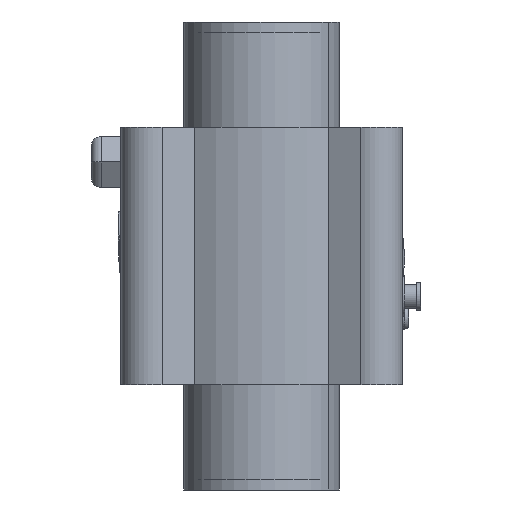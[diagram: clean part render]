
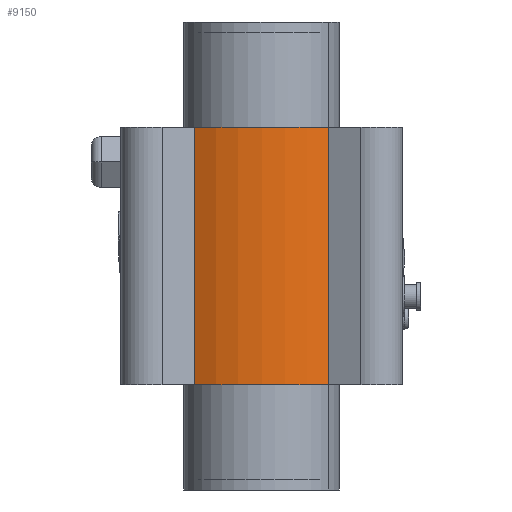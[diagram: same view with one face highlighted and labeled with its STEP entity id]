
A CAD part, front view. The second image highlights one B-rep face of the part: STEP entity #9150.
In plain terms, the highlighted cylindrical face has radius 68 mm (diameter 136 mm), a partial arc.
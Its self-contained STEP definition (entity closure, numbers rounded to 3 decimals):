
#720=CARTESIAN_POINT('',(-65.288,-113.,19.012));
#730=VERTEX_POINT('',#720);
#760=CARTESIAN_POINT('',(0.,-113.,0.));
#770=DIRECTION('',(0.,-1.,0.));
#780=DIRECTION('',(0.,0.,-1.));
#790=AXIS2_PLACEMENT_3D('',#760,#770,#780);
#800=CIRCLE('',#790,68.);
#810=CARTESIAN_POINT('',(-19.012,-113.,65.288));
#820=VERTEX_POINT('',#810);
#830=EDGE_CURVE('',#820,#730,#800,.T.);
#4030=CARTESIAN_POINT('',(-19.012,13.,65.288));
#4040=VERTEX_POINT('',#4030);
#4090=CARTESIAN_POINT('',(-19.012,13.,65.288));
#4100=DIRECTION('',(0.,-1.,0.));
#4110=VECTOR('',#4100,1000.);
#4120=LINE('',#4090,#4110);
#4130=EDGE_CURVE('',#4040,#820,#4120,.T.);
#4930=CARTESIAN_POINT('',(-65.288,13.,19.012));
#4940=VERTEX_POINT('',#4930);
#4970=CARTESIAN_POINT('',(-65.288,13.,19.012));
#4980=DIRECTION('',(0.,-1.,0.));
#4990=VECTOR('',#4980,1000.);
#5000=LINE('',#4970,#4990);
#5010=EDGE_CURVE('',#4940,#730,#5000,.T.);
#8980=CARTESIAN_POINT('',(0.,13.,0.));
#8990=DIRECTION('',(0.,-1.,0.));
#9000=DIRECTION('',(0.,0.,-1.));
#9010=AXIS2_PLACEMENT_3D('',#8980,#8990,#9000);
#9020=CYLINDRICAL_SURFACE('',#9010,68.);
#9030=ORIENTED_EDGE('',*,*,#830,.F.);
#9040=ORIENTED_EDGE('',*,*,#5010,.T.);
#9050=CARTESIAN_POINT('',(0.,13.,0.));
#9060=DIRECTION('',(0.,-1.,0.));
#9070=DIRECTION('',(0.,0.,-1.));
#9080=AXIS2_PLACEMENT_3D('',#9050,#9060,#9070);
#9090=CIRCLE('',#9080,68.);
#9100=EDGE_CURVE('',#4040,#4940,#9090,.T.);
#9110=ORIENTED_EDGE('',*,*,#9100,.T.);
#9120=ORIENTED_EDGE('',*,*,#4130,.F.);
#9130=EDGE_LOOP('',(#9120,#9110,#9040,#9030));
#9140=FACE_OUTER_BOUND('',#9130,.T.);
#9150=ADVANCED_FACE('',(#9140),#9020,.T.);
